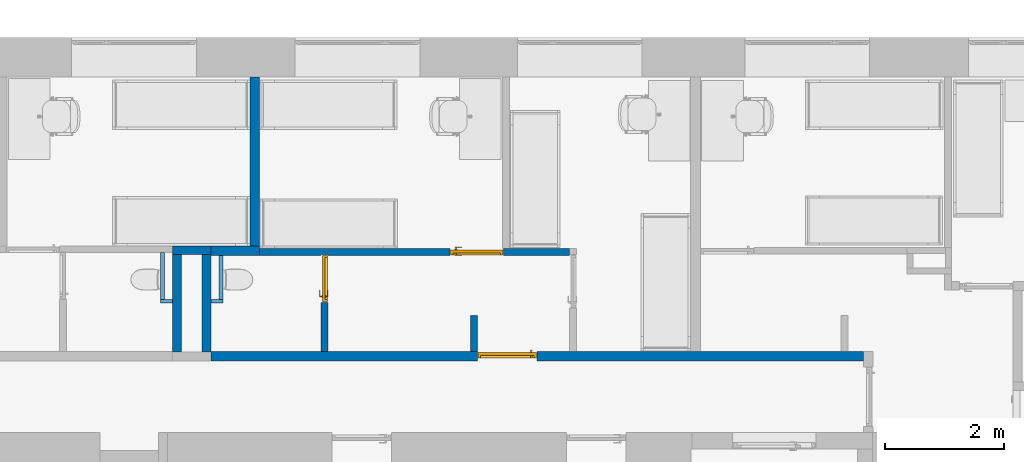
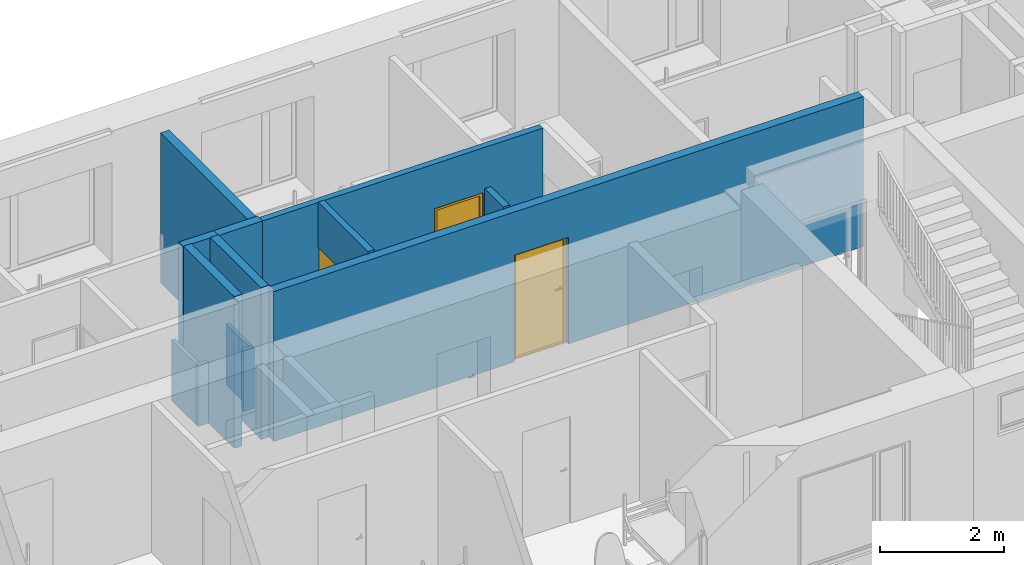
# One storey, part 12 of 46: 13 walls, 3 doors, 4 openings.
"""IFC2X3 building model written with IfcOpenShell, lengths in millimetres."""

from ifc_helpers import new_model, entity, si_unit, converted_unit, derived_unit, direction, frame, frame_2d, origin, place, context, subcontext, project, spatial, rectangle, extrude, faceted_brep, source, transform, mapped, material, material_list, layer, layer_set, layer_usage, type_object, type_shapes, element, fill, save


model = new_model("IFC2X3")

# Units and contexts
model_context = context("Model", 3, precision=0.01, world=origin(), true_north=direction((6.12303176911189e-17, 1.0)))
body_context = subcontext(model_context, "Body", "Model", "MODEL_VIEW")
ifc_project = project(units=[si_unit("LENGTHUNIT", "METRE", prefix="MILLI"), si_unit("AREAUNIT", "SQUARE_METRE"), si_unit("VOLUMEUNIT", "CUBIC_METRE"), converted_unit("PLANEANGLEUNIT", "DEGREE", entity("IfcRatioMeasure", 0.0174532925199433), si_unit("PLANEANGLEUNIT", "RADIAN"), dimensions=[0, 0, 0, 0, 0, 0, 0]), si_unit("MASSUNIT", "GRAM", prefix="KILO"), derived_unit("MASSDENSITYUNIT", [(si_unit("MASSUNIT", "GRAM", prefix="KILO"), 1), (si_unit("LENGTHUNIT", "METRE"), -3)]), si_unit("TIMEUNIT", "SECOND"), si_unit("FREQUENCYUNIT", "HERTZ"), si_unit("THERMODYNAMICTEMPERATUREUNIT", "DEGREE_CELSIUS"), derived_unit("THERMALTRANSMITTANCEUNIT", [(si_unit("MASSUNIT", "GRAM", prefix="KILO"), 1), (si_unit("THERMODYNAMICTEMPERATUREUNIT", "KELVIN"), -1), (si_unit("TIMEUNIT", "SECOND"), -3)]), derived_unit("VOLUMETRICFLOWRATEUNIT", [(si_unit("LENGTHUNIT", "METRE"), 3), (si_unit("TIMEUNIT", "SECOND"), -1)]), si_unit("ELECTRICCURRENTUNIT", "AMPERE"), si_unit("ELECTRICVOLTAGEUNIT", "VOLT"), si_unit("POWERUNIT", "WATT"), si_unit("FORCEUNIT", "NEWTON", prefix="KILO"), si_unit("ILLUMINANCEUNIT", "LUX"), si_unit("LUMINOUSFLUXUNIT", "LUMEN"), si_unit("LUMINOUSINTENSITYUNIT", "CANDELA"), derived_unit("USERDEFINED", [(si_unit("MASSUNIT", "GRAM", prefix="KILO"), -1), (si_unit("LENGTHUNIT", "METRE"), -2), (si_unit("TIMEUNIT", "SECOND"), 3), (si_unit("LUMINOUSFLUXUNIT", "LUMEN"), 1)]), derived_unit("LINEARVELOCITYUNIT", [(si_unit("LENGTHUNIT", "METRE"), 1), (si_unit("TIMEUNIT", "SECOND"), -1)]), si_unit("PRESSUREUNIT", "PASCAL"), derived_unit("USERDEFINED", [(si_unit("LENGTHUNIT", "METRE"), -2), (si_unit("MASSUNIT", "GRAM", prefix="KILO"), 1), (si_unit("TIMEUNIT", "SECOND"), -2)]), derived_unit("LINEARFORCEUNIT", [(si_unit("MASSUNIT", "GRAM", prefix="KILO"), 1), (si_unit("LENGTHUNIT", "METRE"), 1), (si_unit("TIMEUNIT", "SECOND"), -2), (si_unit("LENGTHUNIT", "METRE"), -1)]), derived_unit("PLANARFORCEUNIT", [(si_unit("MASSUNIT", "GRAM", prefix="KILO"), 1), (si_unit("LENGTHUNIT", "METRE"), 1), (si_unit("TIMEUNIT", "SECOND"), -2), (si_unit("LENGTHUNIT", "METRE"), -2)])], contexts=[model_context])

# Site, building, storey
site_placement = place(None, origin())
site = spatial("IfcSite", under=ifc_project, at=site_placement, Name="Default", CompositionType="ELEMENT")
building_placement = place(site_placement, origin())
building = spatial("IfcBuilding", under=site, at=building_placement, Name="SMA ARH", CompositionType="ELEMENT")
storey_placement = place(building_placement, origin())
storey = spatial("IfcBuildingStorey", under=building, at=storey_placement, Name="1 Korrus", CompositionType="ELEMENT", Elevation=0.0)

# Walls
ifc_material_1 = material(Name="EST. Müüritis. Väikeplokk. Kergkruusplokk")
ifc_layer_1 = layer(ifc_material_1, 150.0)
ifc_layer_set_1 = layer_set([ifc_layer_1], Name="Basic Wall:SS-02_ 150mm šahtide vahesein")
ifc_layer_usage_1 = layer_usage(ifc_layer_set_1, "AXIS2", "POSITIVE", -75.0)
wall_type_1 = type_object("IfcWallType", Name="Basic Wall:SS-02_ 150mm šahtide vahesein", PredefinedType="STANDARD", material=ifc_layer_set_1)
wall_1_placement = place(storey_placement, frame((22087.2884818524, 9582.0, 0.0)))
element("IfcWallStandardCase", 1, at=wall_1_placement, inside=storey, type_object=wall_type_1, material=ifc_layer_usage_1, Name="Basic Wall:SS-02_ 150mm šahtide vahesein", ObjectType="Basic Wall:SS-02_ 150mm šahtide vahesein", context=body_context, shape_type="SweptSolid", body=[
    extrude(rectangle(XDim=650.000000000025, YDim=150.000000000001, at=frame_2d((325.000000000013, 4.68958205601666e-13), x_axis=(-1.0, 0.0))), origin(), (0.0, 0.0, 1.0), 2979.99999999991),
])
ifc_layer_usage_2 = layer_usage(ifc_layer_set_1, "AXIS2", "POSITIVE", -75.0)
wall_2_placement = place(storey_placement, frame((22662.2884818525, 9507.0, 0.0), z_axis=(0.0, 0.0, 1.0), x_axis=(0.0, -1.0, 0.0)))
element("IfcWallStandardCase", 2, at=wall_2_placement, inside=storey, type_object=wall_type_1, material=ifc_layer_usage_2, Name="Basic Wall:SS-02_ 150mm šahtide vahesein", ObjectType="Basic Wall:SS-02_ 150mm šahtide vahesein", context=body_context, shape_type="SweptSolid", body=[
    extrude(rectangle(XDim=1637.00000000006, YDim=150.000000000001, at=frame_2d((818.500000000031, 3.69482222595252e-13), x_axis=(-1.0, 0.0))), origin(), (0.0, 0.0, 1.0), 2989.99999999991),
])
ifc_layer_usage_3 = layer_usage(ifc_layer_set_1, "AXIS2", "POSITIVE", -75.0)
wall_3_placement = place(storey_placement, frame((22162.2884818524, 7870.0, 0.0), z_axis=(0.0, 0.0, 1.0), x_axis=(0.0, 1.0, 0.0)))
element("IfcWallStandardCase", 3, at=wall_3_placement, inside=storey, type_object=wall_type_1, material=ifc_layer_usage_3, Name="Basic Wall:SS-02_ 150mm šahtide vahesein", ObjectType="Basic Wall:SS-02_ 150mm šahtide vahesein", context=body_context, shape_type="SweptSolid", body=[
    extrude(rectangle(XDim=1637.00000000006, YDim=150.000000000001, at=frame_2d((818.500000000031, 0.0), x_axis=(-1.0, 0.0))), origin(), (0.0, 0.0, 1.0), 2989.99999999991),
])

# Wall, opening, door
ifc_material_2 = material(Name="EST. Ehitusplaat. Kipsplaat")
ifc_layer_2 = layer(ifc_material_2, 12.5)
ifc_layer_3 = layer(ifc_material_2, 12.5)
ifc_material_3 = material(Name="EST. Soojustus. Mineraalvill. Default")
ifc_layer_4 = layer(ifc_material_3, 50.0)
ifc_layer_5 = layer(ifc_material_2, 12.5)
ifc_layer_6 = layer(ifc_material_3, 50.0)
ifc_layer_7 = layer(ifc_material_2, 12.5)
ifc_layer_8 = layer(ifc_material_2, 12.5)
ifc_layer_set_2 = layer_set([ifc_layer_2, ifc_layer_3, ifc_layer_4, ifc_layer_5, ifc_layer_6, ifc_layer_7, ifc_layer_8], Name="Basic Wall:SS-04_Kips, 50+50 mm metallkarkass 2")
ifc_layer_usage_4 = layer_usage(ifc_layer_set_2, "AXIS2", "NEGATIVE", 81.25)
wall_type_2 = type_object("IfcWallType", Name="Basic Wall:SS-04_Kips, 50+50 mm metallkarkass 2", PredefinedType="STANDARD", material=ifc_layer_set_2)
wall_4_placement = place(storey_placement, frame((22737.2884818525, 7801.25000000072, 0.0)))
wall_4 = element("IfcWallStandardCase", 4, at=wall_4_placement, inside=storey, type_object=wall_type_2, material=ifc_layer_usage_4, Name="Basic Wall:SS-04_Kips, 50+50 mm metallkarkass 2", ObjectType="Basic Wall:SS-04_Kips, 50+50 mm metallkarkass 2", context=body_context, shape_type="SweptSolid", body=[
    extrude(rectangle(XDim=10973.9615181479, YDim=162.5, at=frame_2d((5486.98075907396, -3.5527136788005e-14), x_axis=(-1.0, 0.0))), origin(), (0.0, 0.0, 1.0), 2949.99999999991),
])
opening_1_placement = place(wall_4_placement, frame((4482.0, -81.2500000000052, 0.0)))
opening_1 = element("IfcOpeningElement", 5, at=opening_1_placement, cuts=wall_4, Name="SMA_D01, 1-poolne:SU-P-04 - 1000x2100 EI-30:1", ObjectType="Opening", context=body_context, shape_type="SweptSolid", body=[
    extrude(rectangle(XDim=2099.99999999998, YDim=1000.0, at=frame_2d((1049.99999999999, 500.0), x_axis=(1.0, 0.0))), frame((0.0, 0.0, 0.0), z_axis=(0.0, 1.0, 0.0), x_axis=(0.0, 0.0, 1.0)), (0.0, 0.0, 1.0), 162.5),
])
ifc_material_4 = material(Name="EST. Metall. Alumiinium. Värvitud. RAL7023 (Concrete grey)")
ifc_material_5 = material(Name="<Unnamed>")
ifc_material_6 = material(Name="EST. Klaas. 3x. Default")
ifc_material_list_1 = material_list([ifc_material_4, ifc_material_4, ifc_material_4, ifc_material_5, ifc_material_6, ifc_material_5, ifc_material_5])
door_style_1 = type_object("IfcDoorStyle", Name="SMA_D01, 1-poolne:SU-P-04 - 1000x2100 EI-30", ConstructionType="NOTDEFINED", OperationType="SINGLE_SWING_LEFT", ParameterTakesPrecedence=False, Sizeable=False, material=ifc_material_list_1)
shared_shape_1 = source(origin(), body_context, "Body", "Brep", [
    faceted_brep([(890.0, 52.5000000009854, 1112.5), (795.0, 52.5000000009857, 1112.5), (795.0, 47.5000000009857, 1112.5), (915.0, 47.5000000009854, 1112.5), (915.0, 90.5000000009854, 1112.5), (890.0, 90.5000000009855, 1112.5), (890.0, 52.5000000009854, 1087.5), (890.0, 90.5000000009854, 1087.5), (915.0, 90.5000000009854, 1087.5), (915.0, 47.5000000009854, 1087.5), (795.0, 47.5000000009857, 1087.5), (795.0, 52.5000000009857, 1087.5)], [[[0, 1, 2, 3, 4, 5]], [[6, 7, 8, 9, 10, 11]], [[5, 7, 6, 0]], [[4, 8, 7, 5]], [[3, 9, 8, 4]], [[2, 10, 9, 3]], [[1, 11, 10, 2]], [[0, 6, 11, 1]]]),
    faceted_brep([(877.500000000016, 90.5000000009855, 1137.5), (927.500000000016, 90.5000000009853, 1137.5), (927.500000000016, 92.5000000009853, 1137.5), (877.500000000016, 92.5000000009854, 1137.5), (877.500000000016, 90.5000000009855, 1017.5), (877.500000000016, 92.5000000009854, 1017.5), (927.500000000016, 92.5000000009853, 1017.5), (927.500000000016, 90.5000000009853, 1017.5)], [[[0, 1, 2, 3]], [[4, 5, 6, 7]], [[3, 5, 4, 0]], [[2, 6, 5, 3]], [[1, 7, 6, 2]], [[0, 4, 7, 1]]]),
    faceted_brep([(890.0, 182.500000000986, 1112.5), (890.0, 144.500000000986, 1112.5), (915.0, 144.500000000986, 1112.5), (915.0, 187.500000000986, 1112.5), (795.0, 187.500000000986, 1112.5), (795.0, 182.500000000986, 1112.5), (890.0, 182.500000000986, 1087.5), (795.0, 182.500000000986, 1087.5), (795.0, 187.500000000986, 1087.5), (915.0, 187.500000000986, 1087.5), (915.0, 144.500000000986, 1087.5), (890.0, 144.500000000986, 1087.5)], [[[0, 1, 2, 3, 4, 5]], [[6, 7, 8, 9, 10, 11]], [[1, 0, 6, 11]], [[2, 1, 11, 10]], [[3, 2, 10, 9]], [[4, 3, 9, 8]], [[5, 4, 8, 7]], [[0, 5, 7, 6]]]),
    faceted_brep([(877.500000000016, 144.500000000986, 1137.5), (877.500000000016, 142.500000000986, 1137.5), (927.500000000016, 142.500000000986, 1137.5), (927.500000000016, 144.500000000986, 1137.5), (877.500000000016, 144.500000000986, 1017.5), (927.500000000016, 144.500000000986, 1017.5), (927.500000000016, 142.500000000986, 1017.5), (877.500000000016, 142.500000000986, 1017.5)], [[[0, 1, 2, 3]], [[4, 5, 6, 7]], [[1, 0, 4, 7]], [[2, 1, 7, 6]], [[3, 2, 6, 5]], [[0, 3, 5, 4]]]),
    faceted_brep([(50.0, 52.5000000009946, 30.0), (50.0, 92.5000000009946, 30.0), (50.0, 92.5000000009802, 20.0), (50.0, 92.5000000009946, 0.0), (50.0, 52.5000000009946, 0.0), (950.0, 52.5000000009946, 30.0), (950.0, 52.5000000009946, 0.0), (950.0, 92.5000000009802, 0.0), (950.0, 92.5000000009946, 20.0), (950.0, 92.5000000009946, 30.0), (35.0, 92.5000000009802, 0.0), (35.0, 142.500000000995, 0.0), (965.0, 142.500000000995, 0.0), (965.0, 92.5000000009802, 0.0), (35.0, 142.500000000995, 20.0), (35.0, 92.5000000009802, 20.0), (965.0, 142.500000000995, 20.0), (965.0, 92.5000000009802, 20.0)], [[[0, 1, 2, 3, 4]], [[5, 6, 7, 8, 9]], [[4, 6, 5, 0]], [[3, 10, 11, 12, 13, 7, 6, 4]], [[9, 8, 2, 1]], [[0, 5, 9, 1]], [[14, 11, 10, 15]], [[16, 17, 13, 12]], [[15, 2, 8, 17, 16, 14]], [[10, 3, 2, 15]], [[14, 16, 12, 11]], [[17, 8, 7, 13]]]),
    faceted_brep([(10.0, 52.5000000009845, 0.0), (10.0, 142.500000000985, 0.0), (35.0, 142.500000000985, 0.0), (35.0, 92.5000000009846, 0.0), (50.0, 92.5000000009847, 0.0), (50.0, 52.5000000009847, 0.0), (50.0, 52.5000000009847, 2050.0), (950.0, 52.5000000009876, 2050.0), (950.0, 52.5000000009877, 0.0), (990.0, 52.5000000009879, 0.0), (990.0, 52.5000000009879, 2090.0), (10.0, 52.5000000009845, 2090.0), (50.0, 92.5000000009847, 2050.0), (35.0, 92.5000000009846, 2065.0), (965.0, 92.5000000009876, 2065.0), (965.0, 92.5000000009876, 0.0), (950.0, 92.5000000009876, 0.0), (950.0, 92.5000000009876, 2050.0), (35.0, 142.500000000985, 2065.0), (10.0, 142.500000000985, 2090.0), (990.0, 142.500000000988, 2090.0), (990.0, 142.500000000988, 0.0), (965.0, 142.500000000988, 0.0), (965.0, 142.500000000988, 2065.0)], [[[0, 1, 2, 3, 4, 5]], [[5, 6, 7, 8, 9, 10, 11, 0]], [[4, 12, 6, 5]], [[3, 13, 14, 15, 16, 17, 12, 4]], [[2, 18, 13, 3]], [[1, 19, 20, 21, 22, 23, 18, 2]], [[0, 11, 19, 1]], [[9, 21, 20, 10]], [[8, 16, 15, 22, 21, 9]], [[7, 17, 16, 8]], [[14, 23, 22, 15]], [[6, 12, 17, 7]], [[13, 18, 23, 14]], [[10, 20, 19, 11]]]),
    faceted_brep([(965.0, 92.5000000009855, 2065.0), (35.0, 92.5000000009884, 2065.0), (35.0, 92.5000000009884, 20.0), (965.0, 92.5000000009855, 20.0), (965.0, 142.500000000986, 2065.0), (965.0, 142.500000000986, 20.0), (35.0, 142.500000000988, 20.0), (35.0, 142.500000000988, 2065.0)], [[[0, 1, 2, 3]], [[4, 5, 6, 7]], [[3, 5, 4, 0]], [[2, 6, 5, 3]], [[1, 7, 6, 2]], [[0, 4, 7, 1]]]),
])
type_shapes(door_style_1, [shared_shape_1])
door_1_placement = place(opening_1_placement, origin())
door_1 = element("IfcDoor", 6, at=door_1_placement, inside=storey, type_object=door_style_1, material=ifc_material_4, Name="SMA_D01, 1-poolne:SU-P-04 - 1000x2100 EI-30", ObjectType="SMA_D01, 1-poolne:SU-P-04 - 1000x2100 EI-30", OverallHeight=2099.99999999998, OverallWidth=999.999999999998, context=body_context, shape_type="MappedRepresentation", body=[
    mapped(shared_shape_1, transform((0.0, 0.0, 0.0), scale=1.0)),
])
fill(opening_1, door_1)

# Walls
ifc_layer_usage_5 = layer_usage(ifc_layer_set_2, "AXIS2", "NEGATIVE", 81.25)
wall_5_placement = place(storey_placement, frame((23472.5000000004, 12500.0, 0.0), z_axis=(0.0, 0.0, 1.0), x_axis=(0.0, -1.0, 0.0)))
element("IfcWallStandardCase", 7, at=wall_5_placement, inside=storey, type_object=wall_type_2, material=ifc_layer_usage_5, Name="Basic Wall:SS-04_Kips, 50+50 mm metallkarkass 2", ObjectType="Basic Wall:SS-04_Kips, 50+50 mm metallkarkass 2", context=body_context, shape_type="SweptSolid", body=[
    extrude(rectangle(XDim=2842.99999999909, YDim=162.499999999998, at=frame_2d((1421.49999999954, -2.34479102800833e-13), x_axis=(-1.0, 0.0))), origin(), (0.0, 0.0, 1.0), 2949.99999999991),
])
ifc_layer_usage_6 = layer_usage(ifc_layer_set_2, "AXIS2", "POSITIVE", -81.25)
wall_6_placement = place(storey_placement, frame((23553.7500000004, 9575.75000000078, 0.0), z_axis=(0.0, 0.0, 1.0), x_axis=(-1.0, 0.0, 0.0)))
element("IfcWallStandardCase", 8, at=wall_6_placement, inside=storey, type_object=wall_type_2, material=ifc_layer_usage_6, Name="Basic Wall:SS-04_Kips, 50+50 mm metallkarkass 2", ObjectType="Basic Wall:SS-04_Kips, 50+50 mm metallkarkass 2", context=body_context, shape_type="SweptSolid", body=[
    extrude(rectangle(XDim=816.461518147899, YDim=162.5, at=frame_2d((408.230759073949, -2.20268248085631e-13), x_axis=(-1.0, 0.0))), origin(), (0.0, 0.0, 1.0), 2979.99999999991),
])

# Wall, openings, door
ifc_layer_9 = layer(ifc_material_2, 12.5)
ifc_layer_10 = layer(ifc_material_2, 12.5)
ifc_layer_11 = layer(ifc_material_3, 66.0)
ifc_layer_12 = layer(ifc_material_2, 12.5)
ifc_layer_13 = layer(ifc_material_2, 12.5)
ifc_layer_set_3 = layer_set([ifc_layer_9, ifc_layer_10, ifc_layer_11, ifc_layer_12, ifc_layer_13], Name="Basic Wall:SS-05_Kips, 66mm metallkarkass")
ifc_layer_usage_7 = layer_usage(ifc_layer_set_3, "AXIS2", "POSITIVE", -58.0)
wall_type_3 = type_object("IfcWallType", Name="Basic Wall:SS-05_Kips, 66mm metallkarkass", PredefinedType="STANDARD", material=ifc_layer_set_3)
wall_7_placement = place(storey_placement, frame((28769.5000000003, 9552.5000000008, 0.0), z_axis=(0.0, 0.0, 1.0), x_axis=(-1.0, 0.0, 0.0)))
wall_7 = element("IfcWallStandardCase", 9, at=wall_7_placement, inside=storey, type_object=wall_type_3, material=ifc_layer_usage_7, Name="Basic Wall:SS-05_Kips, 66mm metallkarkass", ObjectType="Basic Wall:SS-05_Kips, 66mm metallkarkass", context=body_context, shape_type="SweptSolid", body=[
    extrude(rectangle(XDim=5296.99999999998, YDim=116.0, at=frame_2d((2648.49999999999, 1.95399252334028e-13), x_axis=(-1.0, 0.0))), origin(), (0.0, 0.0, 1.0), 2979.99999999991),
])
opening_2_placement = place(wall_7_placement, origin())
element("IfcOpeningElement", 10, at=opening_2_placement, cuts=wall_7, Name="Basic Wall:SS-05_Kips, 66mm metallkarkass", ObjectType="Opening", context=body_context, shape_type="SweptSolid", body=[
    extrude(rectangle(XDim=2099.99999999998, YDim=116.0, at=frame_2d((0.0, 0.0), x_axis=(0.0, 1.0))), frame((4124.21151814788, 45.5000000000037, 1050.0), z_axis=(0.0, 1.0, 0.0), x_axis=(1.0, 0.0, 0.0)), (0.0, 0.0, 1.0), 800.0),
])
opening_3_placement = place(wall_7_placement, frame((2013.49999999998, 58.0, 0.0)))
opening_3 = element("IfcOpeningElement", 11, at=opening_3_placement, cuts=wall_7, Name="SMA_D01, 1-poolne:SU-P-05 - 900x2100 TUBA:1", ObjectType="Opening", context=body_context, shape_type="SweptSolid", body=[
    extrude(rectangle(XDim=2099.99999999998, YDim=900.0, at=frame_2d((1049.99999999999, 450.0), x_axis=(1.0, 0.0))), frame((0.0, 0.0, 0.0), z_axis=(0.0, -1.0, 0.0), x_axis=(0.0, 0.0, 1.0)), (0.0, 0.0, 1.0), 116.0),
])
ifc_material_list_2 = material_list([ifc_material_5, ifc_material_6, ifc_material_5, ifc_material_4, ifc_material_4, ifc_material_4, ifc_material_5])
door_style_2 = type_object("IfcDoorStyle", Name="SMA_D01, 1-poolne:SU-P-05 - 900x2100 TUBA", ConstructionType="NOTDEFINED", OperationType="SINGLE_SWING_RIGHT", ParameterTakesPrecedence=False, Sizeable=False, material=ifc_material_list_2)
shared_shape_2 = source(origin(), body_context, "Body", "Brep", [
    faceted_brep([(110.0, 6.0, 1112.5), (110.0, 44.0, 1112.5), (85.0, 44.0, 1112.5), (85.0, 1.0, 1112.5), (205.0, 1.0, 1112.5), (205.0, 6.0, 1112.5), (110.0, 6.0, 1087.5), (205.0, 6.0, 1087.5), (205.0, 1.0, 1087.5), (85.0, 1.0, 1087.5), (85.0, 44.0, 1087.5), (110.0, 44.0, 1087.5)], [[[0, 1, 2, 3, 4, 5]], [[6, 7, 8, 9, 10, 11]], [[1, 0, 6, 11]], [[2, 1, 11, 10]], [[3, 2, 10, 9]], [[4, 3, 9, 8]], [[5, 4, 8, 7]], [[0, 5, 7, 6]]]),
    faceted_brep([(122.5, 44.0, 1137.5), (122.5, 46.0, 1137.5), (72.5000000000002, 46.0, 1137.5), (72.5000000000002, 44.0, 1137.5), (122.5, 44.0, 1017.5), (72.5000000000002, 44.0, 1017.5), (72.5000000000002, 46.0, 1017.5), (122.5, 46.0, 1017.5)], [[[0, 1, 2, 3]], [[4, 5, 6, 7]], [[1, 0, 4, 7]], [[2, 1, 7, 6]], [[3, 2, 6, 5]], [[0, 3, 5, 4]]]),
    faceted_brep([(110.0, 136.0, 1112.5), (205.0, 136.0, 1112.5), (205.0, 141.0, 1112.5), (85.0, 141.0, 1112.5), (85.0, 98.0, 1112.5), (110.0, 98.0, 1112.5), (110.0, 136.0, 1087.5), (110.0, 98.0, 1087.5), (85.0, 98.0, 1087.5), (85.0, 141.0, 1087.5), (205.0, 141.0, 1087.5), (205.0, 136.0, 1087.5)], [[[0, 1, 2, 3, 4, 5]], [[6, 7, 8, 9, 10, 11]], [[5, 7, 6, 0]], [[4, 8, 7, 5]], [[3, 9, 8, 4]], [[2, 10, 9, 3]], [[1, 11, 10, 2]], [[0, 6, 11, 1]]]),
    faceted_brep([(122.5, 98.0, 1137.5), (72.5000000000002, 98.0, 1137.5), (72.5000000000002, 96.0, 1137.5), (122.5, 96.0, 1137.5), (122.5, 98.0, 1017.5), (122.5, 96.0, 1017.5), (72.5000000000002, 96.0, 1017.5), (72.5000000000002, 98.0, 1017.5)], [[[0, 1, 2, 3]], [[4, 5, 6, 7]], [[3, 5, 4, 0]], [[2, 6, 5, 3]], [[1, 7, 6, 2]], [[0, 4, 7, 1]]]),
    faceted_brep([(850.0, 6.0, 30.0), (850.0, 6.0, 0.0), (850.0, 46.0, 0.0), (850.0, 46.0, 20.0), (850.0, 46.0, 30.0), (50.0, 6.0, 30.0), (50.0, 46.0, 30.0), (50.0, 46.0, 20.0), (50.0, 46.0, 0.0), (50.0, 6.0, 0.0), (35.0, 46.0, 0.0), (35.0, 96.0, 0.0), (865.0, 96.0, 0.0), (865.0, 46.0, 0.0), (865.0, 96.0, 20.0), (865.0, 46.0, 20.0), (35.0, 96.0, 20.0), (35.0, 46.0, 20.0)], [[[0, 1, 2, 3, 4]], [[5, 6, 7, 8, 9]], [[1, 0, 5, 9]], [[2, 1, 9, 8, 10, 11, 12, 13]], [[6, 4, 3, 7]], [[0, 4, 6, 5]], [[14, 15, 13, 12]], [[16, 11, 10, 17]], [[15, 14, 16, 17, 7, 3]], [[13, 15, 3, 2]], [[14, 12, 11, 16]], [[17, 10, 8, 7]]]),
    faceted_brep([(890.0, 6.0, 0.0), (850.0, 6.0, 0.0), (850.0, 46.0, 0.0), (865.0, 46.0, 0.0), (865.0, 96.0, 0.0), (890.0, 96.0, 0.0), (890.0, 6.0, 2090.0), (10.0, 6.0, 2090.0), (10.0, 6.0, 0.0), (50.0, 6.0, 0.0), (50.0, 6.0, 2050.0), (850.0, 6.0, 2050.0), (850.0, 46.0, 2050.0), (50.0, 46.0, 2050.0), (50.0, 46.0, 0.0), (35.0, 46.0, 0.0), (35.0, 46.0, 2065.0), (865.0, 46.0, 2065.0), (865.0, 96.0, 2065.0), (35.0, 96.0, 2065.0), (35.0, 96.0, 0.0), (10.0, 96.0, 0.0), (10.0, 96.0, 2090.0), (890.0, 96.0, 2090.0)], [[[0, 1, 2, 3, 4, 5]], [[1, 0, 6, 7, 8, 9, 10, 11]], [[2, 1, 11, 12]], [[3, 2, 12, 13, 14, 15, 16, 17]], [[4, 3, 17, 18]], [[5, 4, 18, 19, 20, 21, 22, 23]], [[0, 5, 23, 6]], [[8, 7, 22, 21]], [[9, 8, 21, 20, 15, 14]], [[10, 9, 14, 13]], [[16, 15, 20, 19]], [[11, 10, 13, 12]], [[17, 16, 19, 18]], [[7, 6, 23, 22]]]),
    faceted_brep([(35.0, 46.0, 2065.0), (35.0, 46.0, 20.0), (865.0, 46.0, 20.0), (865.0, 46.0, 2065.0), (35.0, 96.0, 2065.0), (865.0, 96.0, 2065.0), (865.0, 96.0, 20.0), (35.0, 96.0, 20.0)], [[[0, 1, 2, 3]], [[4, 5, 6, 7]], [[1, 0, 4, 7]], [[2, 1, 7, 6]], [[3, 2, 6, 5]], [[0, 3, 5, 4]]]),
])
type_shapes(door_style_2, [shared_shape_2])
door_2_placement = place(opening_3_placement, frame((0.0, 0.0, 0.0), z_axis=(0.0, 0.0, 1.0), x_axis=(-1.0, 0.0, 0.0)))
door_2 = element("IfcDoor", 12, at=door_2_placement, inside=storey, type_object=door_style_2, material=ifc_material_4, Name="SMA_D01, 1-poolne:SU-P-05 - 900x2100 TUBA", ObjectType="SMA_D01, 1-poolne:SU-P-05 - 900x2100 TUBA", OverallHeight=2099.99999999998, OverallWidth=900.000000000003, context=body_context, shape_type="MappedRepresentation", body=[
    mapped(shared_shape_2, transform((0.0, 0.0, 0.0), scale=1.0)),
])
fill(opening_3, door_2)

# Wall, opening, door
ifc_layer_14 = layer(ifc_material_2, 12.5)
ifc_layer_15 = layer(ifc_material_2, 12.5)
ifc_material_7 = material(Name="EST. Õhkvahe. Roov. Kipsplaadi alusroov. Vertikaalne")
ifc_layer_16 = layer(ifc_material_7, 66.0)
ifc_layer_17 = layer(ifc_material_2, 12.5)
ifc_layer_18 = layer(ifc_material_2, 12.5)
ifc_layer_set_4 = layer_set([ifc_layer_14, ifc_layer_15, ifc_layer_16, ifc_layer_17, ifc_layer_18], Name="Basic Wall:SS-03_Kips, 66mm metallkarkass")
ifc_layer_usage_8 = layer_usage(ifc_layer_set_4, "AXIS2", "POSITIVE", -58.0)
wall_type_4 = type_object("IfcWallType", Name="Basic Wall:SS-03_Kips, 66mm metallkarkass", PredefinedType="STANDARD", material=ifc_layer_set_4)
wall_8_placement = place(storey_placement, frame((24645.2884818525, 7882.50000000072, 0.0), z_axis=(0.0, 0.0, 1.0), x_axis=(0.0, 1.0, 0.0)))
wall_8 = element("IfcWallStandardCase", 13, at=wall_8_placement, inside=storey, type_object=wall_type_4, material=ifc_layer_usage_8, Name="Basic Wall:SS-03_Kips, 66mm metallkarkass", ObjectType="Basic Wall:SS-03_Kips, 66mm metallkarkass", context=body_context, shape_type="SweptSolid", body=[
    extrude(rectangle(XDim=1612.00000000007, YDim=116.0, at=frame_2d((806.000000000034, -1.77635683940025e-14), x_axis=(-1.0, 0.0))), origin(), (0.0, 0.0, 1.0), 2989.99999999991),
])
opening_4_placement = place(wall_8_placement, frame((824.500000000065, -58.0, 0.0)))
opening_4 = element("IfcOpeningElement", 14, at=opening_4_placement, cuts=wall_8, Name="SMA_D01, 1-poolne:SU-P-06 - 800x2100 DUŠŠ:1", ObjectType="Opening", context=body_context, shape_type="SweptSolid", body=[
    extrude(rectangle(XDim=2099.99999999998, YDim=800.0, at=frame_2d((1049.99999999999, 400.0), x_axis=(1.0, 0.0))), frame((0.0, 0.0, 0.0), z_axis=(0.0, 1.0, 0.0), x_axis=(0.0, 0.0, 1.0)), (0.0, 0.0, 1.0), 116.0),
])
ifc_material_list_3 = material_list([ifc_material_4, ifc_material_4, ifc_material_5, ifc_material_6, ifc_material_5, ifc_material_4, ifc_material_5])
door_style_3 = type_object("IfcDoorStyle", Name="SMA_D01, 1-poolne:SU-P-06 - 800x2100 DUŠŠ", ConstructionType="NOTDEFINED", OperationType="SINGLE_SWING_RIGHT", ParameterTakesPrecedence=False, Sizeable=False, material=ifc_material_list_3)
shared_shape_3 = source(origin(), body_context, "Body", "Brep", [
    faceted_brep([(110.0, 6.0, 1112.5), (110.0, 44.0, 1112.5), (85.0, 44.0, 1112.5), (85.0, 1.0, 1112.5), (205.0, 1.0, 1112.5), (205.0, 6.0, 1112.5), (110.0, 6.0, 1087.5), (205.0, 6.0, 1087.5), (205.0, 1.0, 1087.5), (85.0, 1.0, 1087.5), (85.0, 44.0, 1087.5), (110.0, 44.0, 1087.5)], [[[0, 1, 2, 3, 4, 5]], [[6, 7, 8, 9, 10, 11]], [[1, 0, 6, 11]], [[2, 1, 11, 10]], [[3, 2, 10, 9]], [[4, 3, 9, 8]], [[5, 4, 8, 7]], [[0, 5, 7, 6]]]),
    faceted_brep([(122.5, 44.0, 1137.5), (122.5, 46.0, 1137.5), (72.4999999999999, 46.0, 1137.5), (72.4999999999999, 44.0, 1137.5), (122.5, 44.0, 1017.5), (72.4999999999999, 44.0, 1017.5), (72.4999999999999, 46.0, 1017.5), (122.5, 46.0, 1017.5)], [[[0, 1, 2, 3]], [[4, 5, 6, 7]], [[1, 0, 4, 7]], [[2, 1, 7, 6]], [[3, 2, 6, 5]], [[0, 3, 5, 4]]]),
    faceted_brep([(110.0, 136.0, 1112.5), (205.0, 136.0, 1112.5), (205.0, 141.0, 1112.5), (85.0, 141.0, 1112.5), (85.0, 98.0, 1112.5), (110.0, 98.0, 1112.5), (110.0, 136.0, 1087.5), (110.0, 98.0, 1087.5), (85.0, 98.0, 1087.5), (85.0, 141.0, 1087.5), (205.0, 141.0, 1087.5), (205.0, 136.0, 1087.5)], [[[0, 1, 2, 3, 4, 5]], [[6, 7, 8, 9, 10, 11]], [[5, 7, 6, 0]], [[4, 8, 7, 5]], [[3, 9, 8, 4]], [[2, 10, 9, 3]], [[1, 11, 10, 2]], [[0, 6, 11, 1]]]),
    faceted_brep([(122.5, 98.0, 1137.5), (72.4999999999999, 98.0, 1137.5), (72.4999999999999, 96.0, 1137.5), (122.5, 96.0, 1137.5), (122.5, 98.0, 1017.5), (122.5, 96.0, 1017.5), (72.4999999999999, 96.0, 1017.5), (72.4999999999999, 98.0, 1017.5)], [[[0, 1, 2, 3]], [[4, 5, 6, 7]], [[3, 5, 4, 0]], [[2, 6, 5, 3]], [[1, 7, 6, 2]], [[0, 4, 7, 1]]]),
    faceted_brep([(750.0, 6.0, 30.0), (750.0, 6.0, 0.0), (750.0, 46.0, 0.0), (750.0, 46.0, 20.0), (750.0, 46.0, 30.0), (50.0, 6.0, 30.0), (50.0, 46.0, 30.0), (50.0, 46.0, 20.0), (50.0, 46.0, 0.0), (50.0, 6.0, 0.0), (35.0, 46.0, 0.0), (35.0, 96.0, 0.0), (765.0, 96.0, 0.0), (765.0, 46.0, 0.0), (765.0, 96.0, 20.0), (765.0, 46.0, 20.0), (35.0, 96.0, 20.0), (35.0, 46.0, 20.0)], [[[0, 1, 2, 3, 4]], [[5, 6, 7, 8, 9]], [[1, 0, 5, 9]], [[2, 1, 9, 8, 10, 11, 12, 13]], [[6, 4, 3, 7]], [[0, 4, 6, 5]], [[14, 15, 13, 12]], [[16, 11, 10, 17]], [[15, 14, 16, 17, 7, 3]], [[13, 15, 3, 2]], [[14, 12, 11, 16]], [[17, 10, 8, 7]]]),
    faceted_brep([(790.0, 6.0, 0.0), (750.0, 6.0, 0.0), (750.0, 46.0, 0.0), (765.0, 46.0, 0.0), (765.0, 96.0, 0.0), (790.0, 96.0, 0.0), (790.0, 6.0, 2090.0), (10.0, 6.0, 2090.0), (10.0, 6.0, 0.0), (50.0, 6.0, 0.0), (50.0, 6.0, 2050.0), (750.0, 6.0, 2050.0), (750.0, 46.0, 2050.0), (50.0, 46.0, 2050.0), (50.0, 46.0, 0.0), (35.0, 46.0, 0.0), (35.0, 46.0, 2065.0), (765.0, 46.0, 2065.0), (765.0, 96.0, 2065.0), (35.0, 96.0, 2065.0), (35.0, 96.0, 0.0), (10.0, 96.0, 0.0), (10.0, 96.0, 2090.0), (790.0, 96.0, 2090.0)], [[[0, 1, 2, 3, 4, 5]], [[1, 0, 6, 7, 8, 9, 10, 11]], [[2, 1, 11, 12]], [[3, 2, 12, 13, 14, 15, 16, 17]], [[4, 3, 17, 18]], [[5, 4, 18, 19, 20, 21, 22, 23]], [[0, 5, 23, 6]], [[8, 7, 22, 21]], [[9, 8, 21, 20, 15, 14]], [[10, 9, 14, 13]], [[16, 15, 20, 19]], [[11, 10, 13, 12]], [[17, 16, 19, 18]], [[7, 6, 23, 22]]]),
    faceted_brep([(35.0, 46.0, 2065.0), (35.0, 46.0, 20.0), (765.0, 46.0, 20.0), (765.0, 46.0, 2065.0), (35.0, 96.0, 2065.0), (765.0, 96.0, 2065.0), (765.0, 96.0, 20.0), (35.0, 96.0, 20.0)], [[[0, 1, 2, 3]], [[4, 5, 6, 7]], [[1, 0, 4, 7]], [[2, 1, 7, 6]], [[3, 2, 6, 5]], [[0, 3, 5, 4]]]),
])
type_shapes(door_style_3, [shared_shape_3])
door_3_placement = place(opening_4_placement, origin())
door_3 = element("IfcDoor", 15, at=door_3_placement, inside=storey, type_object=door_style_3, material=ifc_material_4, Name="SMA_D01, 1-poolne:SU-P-06 - 800x2100 DUŠŠ", ObjectType="SMA_D01, 1-poolne:SU-P-06 - 800x2100 DUŠŠ", OverallHeight=2099.99999999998, OverallWidth=800.0, context=body_context, shape_type="MappedRepresentation", body=[
    mapped(shared_shape_3, transform((0.0, 0.0, 0.0), scale=1.0)),
])
fill(opening_4, door_3)

# Walls
ifc_layer_usage_9 = layer_usage(ifc_layer_set_4, "AXIS2", "POSITIVE", -58.0)
wall_9_placement = place(storey_placement, frame((27161.2884818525, 8482.50000000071, 0.0), z_axis=(0.0, 0.0, 1.0), x_axis=(0.0, -1.0, 0.0)))
element("IfcWallStandardCase", 16, at=wall_9_placement, inside=storey, type_object=wall_type_4, material=ifc_layer_usage_9, Name="Basic Wall:SS-03_Kips, 66mm metallkarkass", ObjectType="Basic Wall:SS-03_Kips, 66mm metallkarkass", context=body_context, shape_type="SweptSolid", body=[
    extrude(rectangle(XDim=599.999999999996, YDim=116.0, at=frame_2d((299.999999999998, 0.0), x_axis=(-1.0, 0.0))), origin(), (0.0, 0.0, 1.0), 2989.99999999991),
])
ifc_material_8 = material(Name="EST. Põrand. Plaatkate")
ifc_layer_19 = layer(ifc_material_8, 10.0)
ifc_layer_20 = layer(ifc_material_2, 12.5)
ifc_layer_21 = layer(ifc_material_7, 42.0)
ifc_layer_set_5 = layer_set([ifc_layer_19, ifc_layer_20, ifc_layer_21], Name="Basic Wall:SS-04 - loputuskast")
ifc_layer_usage_10 = layer_usage(ifc_layer_set_5, "AXIS2", "POSITIVE", -32.25)
wall_type_5 = type_object("IfcWallType", Name="Basic Wall:SS-04 - loputuskast", PredefinedType="STANDARD", material=ifc_layer_set_5)
wall_10_placement = place(storey_placement, frame((21919.5384818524, 9541.0, 0.0), z_axis=(0.0, 0.0, 1.0), x_axis=(0.0, -1.0, 0.0)))
element("IfcWallStandardCase", 17, at=wall_10_placement, inside=storey, type_object=wall_type_5, material=ifc_layer_usage_10, Name="Basic Wall:SS-04 - loputuskast", ObjectType="Basic Wall:SS-04 - loputuskast", context=body_context, shape_type="SweptSolid", body=[
    extrude(rectangle(XDim=784.0, YDim=64.5000000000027, at=frame_2d((392.0, -1.23634436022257e-12), x_axis=(-1.0, 0.0))), origin(), (0.0, 0.0, 1.0), 1200.0),
])
ifc_layer_usage_11 = layer_usage(ifc_layer_set_5, "AXIS2", "POSITIVE", -32.25)
wall_11_placement = place(storey_placement, frame((21887.2884818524, 8724.75000000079, 0.0)))
element("IfcWallStandardCase", 18, at=wall_11_placement, inside=storey, type_object=wall_type_5, material=ifc_layer_usage_11, Name="Basic Wall:SS-04 - loputuskast", ObjectType="Basic Wall:SS-04 - loputuskast", context=body_context, shape_type="SweptSolid", body=[
    extrude(rectangle(XDim=200.000000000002, YDim=64.5000000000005, at=frame_2d((100.000000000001, -2.94875235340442e-13), x_axis=(-1.0, 0.0))), origin(), (0.0, 0.0, 1.0), 1200.0),
])
ifc_layer_usage_12 = layer_usage(ifc_layer_set_5, "AXIS2", "NEGATIVE", 32.25)
wall_12_placement = place(storey_placement, frame((22905.0384818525, 9494.50000000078, 0.0), z_axis=(0.0, 0.0, 1.0), x_axis=(0.0, -1.0, 0.0)))
element("IfcWallStandardCase", 19, at=wall_12_placement, inside=storey, type_object=wall_type_5, material=ifc_layer_usage_12, Name="Basic Wall:SS-04 - loputuskast", ObjectType="Basic Wall:SS-04 - loputuskast", context=body_context, shape_type="SweptSolid", body=[
    extrude(rectangle(XDim=737.499999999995, YDim=64.5000000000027, at=frame_2d((368.749999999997, -7.42517158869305e-13), x_axis=(-1.0, 0.0))), origin(), (0.0, 0.0, 1.0), 1200.0),
])
ifc_layer_usage_13 = layer_usage(ifc_layer_set_5, "AXIS2", "NEGATIVE", 32.25)
wall_13_placement = place(storey_placement, frame((22937.2884818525, 8724.75000000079, 0.0), z_axis=(0.0, 0.0, 1.0), x_axis=(-1.0, 0.0, 0.0)))
element("IfcWallStandardCase", 20, at=wall_13_placement, inside=storey, type_object=wall_type_5, material=ifc_layer_usage_13, Name="Basic Wall:SS-04 - loputuskast", ObjectType="Basic Wall:SS-04 - loputuskast", context=body_context, shape_type="SweptSolid", body=[
    extrude(rectangle(XDim=200.000000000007, YDim=64.5000000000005, at=frame_2d((100.000000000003, 2.94875235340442e-13), x_axis=(-1.0, 0.0))), origin(), (0.0, 0.0, 1.0), 1200.0),
])

save(model, "model.ifc")
